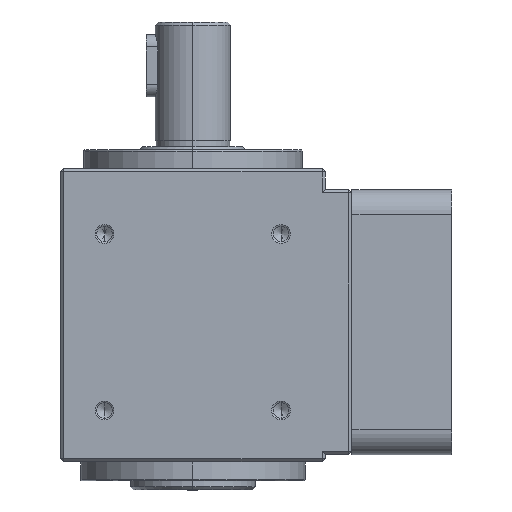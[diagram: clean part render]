
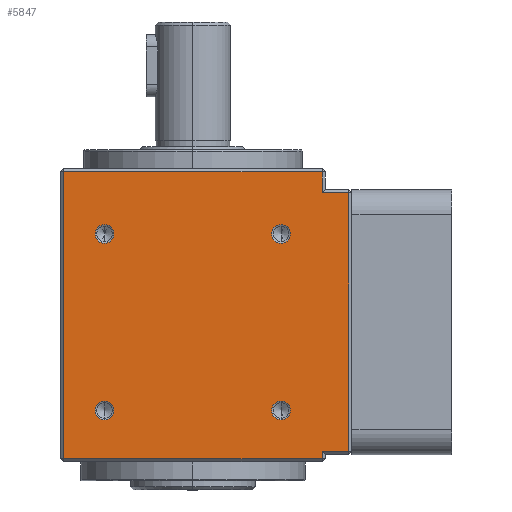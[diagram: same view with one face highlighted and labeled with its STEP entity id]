
A CAD part, left-side view. The second image highlights one B-rep face of the part: STEP entity #5847.
In plain terms, the highlighted planar face has unit normal (-1, 0, 0) as drawn and (1, 0, 0) by its records, which use the part's own axes.
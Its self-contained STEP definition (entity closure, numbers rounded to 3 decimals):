
#333 = VERTEX_POINT ( 'NONE', #4322 ) ;
#587 = CARTESIAN_POINT ( 'NONE',  ( 21.25, 14.142, 13.458 ) ) ;
#685 = VECTOR ( 'NONE', #6903, 1000. ) ;
#1041 = AXIS2_PLACEMENT_3D ( 'NONE', #9633, #21694, #26492 ) ;
#1079 = AXIS2_PLACEMENT_3D ( 'NONE', #18109, #27599, #27702 ) ;
#2401 = LINE ( 'NONE', #8398, #20717 ) ;
#2524 = VERTEX_POINT ( 'NONE', #24504 ) ;
#2564 = DIRECTION ( 'NONE',  ( 0., 0., -1. ) ) ;
#2759 = CIRCLE ( 'NONE', #1079, 1.5 ) ;
#3294 = CIRCLE ( 'NONE', #1041, 1.5 ) ;
#3386 = ORIENTED_EDGE ( 'NONE', *, *, #29505, .T. ) ;
#3409 = CARTESIAN_POINT ( 'NONE',  ( 21.25, -14.142, 14.958 ) ) ;
#3957 = DIRECTION ( 'NONE',  ( 0., 1., 0. ) ) ;
#4322 = CARTESIAN_POINT ( 'NONE',  ( 21.25, 14.142, 43.242 ) ) ;
#5243 = CARTESIAN_POINT ( 'NONE',  ( 21.25, 14.142, 13.458 ) ) ;
#5324 = ORIENTED_EDGE ( 'NONE', *, *, #25485, .T. ) ;
#5545 = DIRECTION ( 'NONE',  ( 1., 0., 0. ) ) ;
#5817 = DIRECTION ( 'NONE',  ( 0., 0., -1. ) ) ;
#5847 = ADVANCED_FACE ( 'NONE', ( #17974, #28053, #10065, #8204, #21716 ), #25418, .F. ) ;
#6090 = CARTESIAN_POINT ( 'NONE',  ( 21.25, 21.25, 3.5 ) ) ;
#6181 = CARTESIAN_POINT ( 'NONE',  ( 21.25, 14.142, 41.742 ) ) ;
#6289 = CARTESIAN_POINT ( 'NONE',  ( 21.25, -21.25, 49.5 ) ) ;
#6903 = DIRECTION ( 'NONE',  ( 0., 0., -1. ) ) ;
#6964 = ORIENTED_EDGE ( 'NONE', *, *, #14539, .T. ) ;
#7069 = CARTESIAN_POINT ( 'NONE',  ( 21.25, -20.75, 49.5 ) ) ;
#7082 = CARTESIAN_POINT ( 'NONE',  ( 21.25, 20.75, 49.5 ) ) ;
#7312 = LINE ( 'NONE', #6289, #21574 ) ;
#7593 = CARTESIAN_POINT ( 'NONE',  ( 21.25, 14.142, 40.242 ) ) ;
#7614 = CARTESIAN_POINT ( 'NONE',  ( 21.25, -20.75, 48.35 ) ) ;
#7696 = CARTESIAN_POINT ( 'NONE',  ( 21.25, -14.142, 41.742 ) ) ;
#7784 = AXIS2_PLACEMENT_3D ( 'NONE', #5243, #14845, #10450 ) ;
#7946 = CARTESIAN_POINT ( 'NONE',  ( 21.25, -20.75, 3.5 ) ) ;
#7976 = VERTEX_POINT ( 'NONE', #7593 ) ;
#8204 = FACE_BOUND ( 'NONE', #19609, .T. ) ;
#8252 = DIRECTION ( 'NONE',  ( 0., -1., 0. ) ) ;
#8363 = EDGE_CURVE ( 'NONE', #25531, #21796, #24581, .T. ) ;
#8398 = CARTESIAN_POINT ( 'NONE',  ( 21.25, -25., 53. ) ) ;
#8424 = CIRCLE ( 'NONE', #7784, 1.5 ) ;
#8890 = CIRCLE ( 'NONE', #27997, 1.5 ) ;
#9073 = VERTEX_POINT ( 'NONE', #13186 ) ;
#9633 = CARTESIAN_POINT ( 'NONE',  ( 21.25, -14.142, 41.742 ) ) ;
#9668 = DIRECTION ( 'NONE',  ( 0., 0., -1. ) ) ;
#10030 = CIRCLE ( 'NONE', #17381, 1.5 ) ;
#10065 = FACE_BOUND ( 'NONE', #23105, .T. ) ;
#10201 = EDGE_CURVE ( 'NONE', #16252, #21580, #2759, .T. ) ;
#10450 = DIRECTION ( 'NONE',  ( 0., 0., -1. ) ) ;
#10551 = EDGE_CURVE ( 'NONE', #333, #7976, #15830, .T. ) ;
#10773 = DIRECTION ( 'NONE',  ( -1., 0., 0. ) ) ;
#10998 = EDGE_CURVE ( 'NONE', #21005, #2524, #17282, .T. ) ;
#11267 = EDGE_LOOP ( 'NONE', ( #3386, #20449, #6964, #25500, #17860, #24764, #26017, #5324 ) ) ;
#11385 = LINE ( 'NONE', #28469, #12160 ) ;
#12160 = VECTOR ( 'NONE', #29211, 1000. ) ;
#12465 = EDGE_CURVE ( 'NONE', #9073, #25549, #28797, .T. ) ;
#12843 = ORIENTED_EDGE ( 'NONE', *, *, #12465, .F. ) ;
#12964 = EDGE_CURVE ( 'NONE', #21580, #16252, #10030, .T. ) ;
#13146 = EDGE_CURVE ( 'NONE', #19723, #22049, #17941, .T. ) ;
#13185 = AXIS2_PLACEMENT_3D ( 'NONE', #587, #5545, #29175 ) ;
#13186 = CARTESIAN_POINT ( 'NONE',  ( 21.25, -14.142, 43.242 ) ) ;
#13520 = CARTESIAN_POINT ( 'NONE',  ( 21.25, 20.75, 3.5 ) ) ;
#13646 = CARTESIAN_POINT ( 'NONE',  ( 21.25, -25., 6.85 ) ) ;
#14469 = VECTOR ( 'NONE', #27824, 1000. ) ;
#14539 = EDGE_CURVE ( 'NONE', #2524, #25531, #30169, .T. ) ;
#14845 = DIRECTION ( 'NONE',  ( 1., 0., 0. ) ) ;
#15034 = DIRECTION ( 'NONE',  ( 1., 0., 0. ) ) ;
#15830 = CIRCLE ( 'NONE', #23576, 1.5 ) ;
#16252 = VERTEX_POINT ( 'NONE', #21461 ) ;
#16965 = DIRECTION ( 'NONE',  ( 0., 0., -1. ) ) ;
#17282 = LINE ( 'NONE', #18083, #18401 ) ;
#17381 = AXIS2_PLACEMENT_3D ( 'NONE', #19271, #19367, #16965 ) ;
#17600 = CARTESIAN_POINT ( 'NONE',  ( 21.25, -25.5, 48.35 ) ) ;
#17809 = CARTESIAN_POINT ( 'NONE',  ( 21.25, -14.142, 40.242 ) ) ;
#17860 = ORIENTED_EDGE ( 'NONE', *, *, #26994, .T. ) ;
#17941 = LINE ( 'NONE', #21573, #20919 ) ;
#17974 = FACE_OUTER_BOUND ( 'NONE', #11267, .T. ) ;
#18083 = CARTESIAN_POINT ( 'NONE',  ( 21.25, -21.25, 6.85 ) ) ;
#18109 = CARTESIAN_POINT ( 'NONE',  ( 21.25, -14.142, 13.458 ) ) ;
#18401 = VECTOR ( 'NONE', #3957, 1000. ) ;
#18592 = ORIENTED_EDGE ( 'NONE', *, *, #22158, .F. ) ;
#18732 = CARTESIAN_POINT ( 'NONE',  ( 21.25, 14.142, 11.958 ) ) ;
#18888 = CIRCLE ( 'NONE', #13185, 1.5 ) ;
#19136 = VECTOR ( 'NONE', #8252, 1000. ) ;
#19271 = CARTESIAN_POINT ( 'NONE',  ( 21.25, -14.142, 13.458 ) ) ;
#19367 = DIRECTION ( 'NONE',  ( 1., 0., 0. ) ) ;
#19474 = EDGE_CURVE ( 'NONE', #7976, #333, #8890, .T. ) ;
#19609 = EDGE_LOOP ( 'NONE', ( #21190, #19906 ) ) ;
#19666 = ORIENTED_EDGE ( 'NONE', *, *, #21082, .F. ) ;
#19723 = VERTEX_POINT ( 'NONE', #7069 ) ;
#19894 = LINE ( 'NONE', #17600, #19136 ) ;
#19906 = ORIENTED_EDGE ( 'NONE', *, *, #10551, .F. ) ;
#20292 = DIRECTION ( 'NONE',  ( 0., 0., 1. ) ) ;
#20449 = ORIENTED_EDGE ( 'NONE', *, *, #10998, .T. ) ;
#20717 = VECTOR ( 'NONE', #5817, 1000. ) ;
#20919 = VECTOR ( 'NONE', #2564, 1000. ) ;
#21005 = VERTEX_POINT ( 'NONE', #13646 ) ;
#21082 = EDGE_CURVE ( 'NONE', #25549, #9073, #3294, .T. ) ;
#21190 = ORIENTED_EDGE ( 'NONE', *, *, #19474, .F. ) ;
#21461 = CARTESIAN_POINT ( 'NONE',  ( 21.25, -14.142, 11.958 ) ) ;
#21573 = CARTESIAN_POINT ( 'NONE',  ( 21.25, -20.75, 53. ) ) ;
#21574 = VECTOR ( 'NONE', #25734, 1000. ) ;
#21580 = VERTEX_POINT ( 'NONE', #3409 ) ;
#21694 = DIRECTION ( 'NONE',  ( 1., 0., 0. ) ) ;
#21716 = FACE_BOUND ( 'NONE', #22137, .T. ) ;
#21739 = EDGE_CURVE ( 'NONE', #22802, #19723, #7312, .T. ) ;
#21796 = VERTEX_POINT ( 'NONE', #13520 ) ;
#22049 = VERTEX_POINT ( 'NONE', #7614 ) ;
#22137 = EDGE_LOOP ( 'NONE', ( #26960, #18592 ) ) ;
#22158 = EDGE_CURVE ( 'NONE', #25837, #27483, #8424, .T. ) ;
#22388 = AXIS2_PLACEMENT_3D ( 'NONE', #22730, #10773, #20292 ) ;
#22730 = CARTESIAN_POINT ( 'NONE',  ( 21.25, -21.25, 53. ) ) ;
#22802 = VERTEX_POINT ( 'NONE', #7082 ) ;
#22980 = CARTESIAN_POINT ( 'NONE',  ( 21.25, -25., 48.35 ) ) ;
#23105 = EDGE_LOOP ( 'NONE', ( #19666, #12843 ) ) ;
#23576 = AXIS2_PLACEMENT_3D ( 'NONE', #24010, #26005, #9668 ) ;
#24010 = CARTESIAN_POINT ( 'NONE',  ( 21.25, 14.142, 41.742 ) ) ;
#24504 = CARTESIAN_POINT ( 'NONE',  ( 21.25, -20.75, 6.85 ) ) ;
#24581 = LINE ( 'NONE', #6090, #14469 ) ;
#24764 = ORIENTED_EDGE ( 'NONE', *, *, #21739, .T. ) ;
#25418 = PLANE ( 'NONE',  #22388 ) ;
#25485 = EDGE_CURVE ( 'NONE', #22049, #26568, #19894, .T. ) ;
#25500 = ORIENTED_EDGE ( 'NONE', *, *, #8363, .T. ) ;
#25531 = VERTEX_POINT ( 'NONE', #7946 ) ;
#25549 = VERTEX_POINT ( 'NONE', #17809 ) ;
#25734 = DIRECTION ( 'NONE',  ( 0., -1., 0. ) ) ;
#25837 = VERTEX_POINT ( 'NONE', #28215 ) ;
#26005 = DIRECTION ( 'NONE',  ( 1., 0., 0. ) ) ;
#26017 = ORIENTED_EDGE ( 'NONE', *, *, #13146, .T. ) ;
#26492 = DIRECTION ( 'NONE',  ( 0., 0., -1. ) ) ;
#26568 = VERTEX_POINT ( 'NONE', #22980 ) ;
#26745 = DIRECTION ( 'NONE',  ( 0., 0., -1. ) ) ;
#26960 = ORIENTED_EDGE ( 'NONE', *, *, #28383, .F. ) ;
#26994 = EDGE_CURVE ( 'NONE', #21796, #22802, #11385, .T. ) ;
#27483 = VERTEX_POINT ( 'NONE', #18732 ) ;
#27556 = ORIENTED_EDGE ( 'NONE', *, *, #10201, .F. ) ;
#27599 = DIRECTION ( 'NONE',  ( 1., 0., 0. ) ) ;
#27611 = AXIS2_PLACEMENT_3D ( 'NONE', #7696, #15034, #26745 ) ;
#27702 = DIRECTION ( 'NONE',  ( 0., 0., -1. ) ) ;
#27824 = DIRECTION ( 'NONE',  ( 0., 1., 0. ) ) ;
#27969 = EDGE_LOOP ( 'NONE', ( #27556, #28629 ) ) ;
#27997 = AXIS2_PLACEMENT_3D ( 'NONE', #6181, #30311, #30513 ) ;
#28053 = FACE_BOUND ( 'NONE', #27969, .T. ) ;
#28215 = CARTESIAN_POINT ( 'NONE',  ( 21.25, 14.142, 14.958 ) ) ;
#28383 = EDGE_CURVE ( 'NONE', #27483, #25837, #18888, .T. ) ;
#28453 = CARTESIAN_POINT ( 'NONE',  ( 21.25, -20.75, 53. ) ) ;
#28469 = CARTESIAN_POINT ( 'NONE',  ( 21.25, 20.75, 53. ) ) ;
#28629 = ORIENTED_EDGE ( 'NONE', *, *, #12964, .F. ) ;
#28797 = CIRCLE ( 'NONE', #27611, 1.5 ) ;
#29175 = DIRECTION ( 'NONE',  ( 0., 0., -1. ) ) ;
#29211 = DIRECTION ( 'NONE',  ( 0., 0., 1. ) ) ;
#29505 = EDGE_CURVE ( 'NONE', #26568, #21005, #2401, .T. ) ;
#30169 = LINE ( 'NONE', #28453, #685 ) ;
#30311 = DIRECTION ( 'NONE',  ( 1., 0., 0. ) ) ;
#30513 = DIRECTION ( 'NONE',  ( 0., 0., -1. ) ) ;
